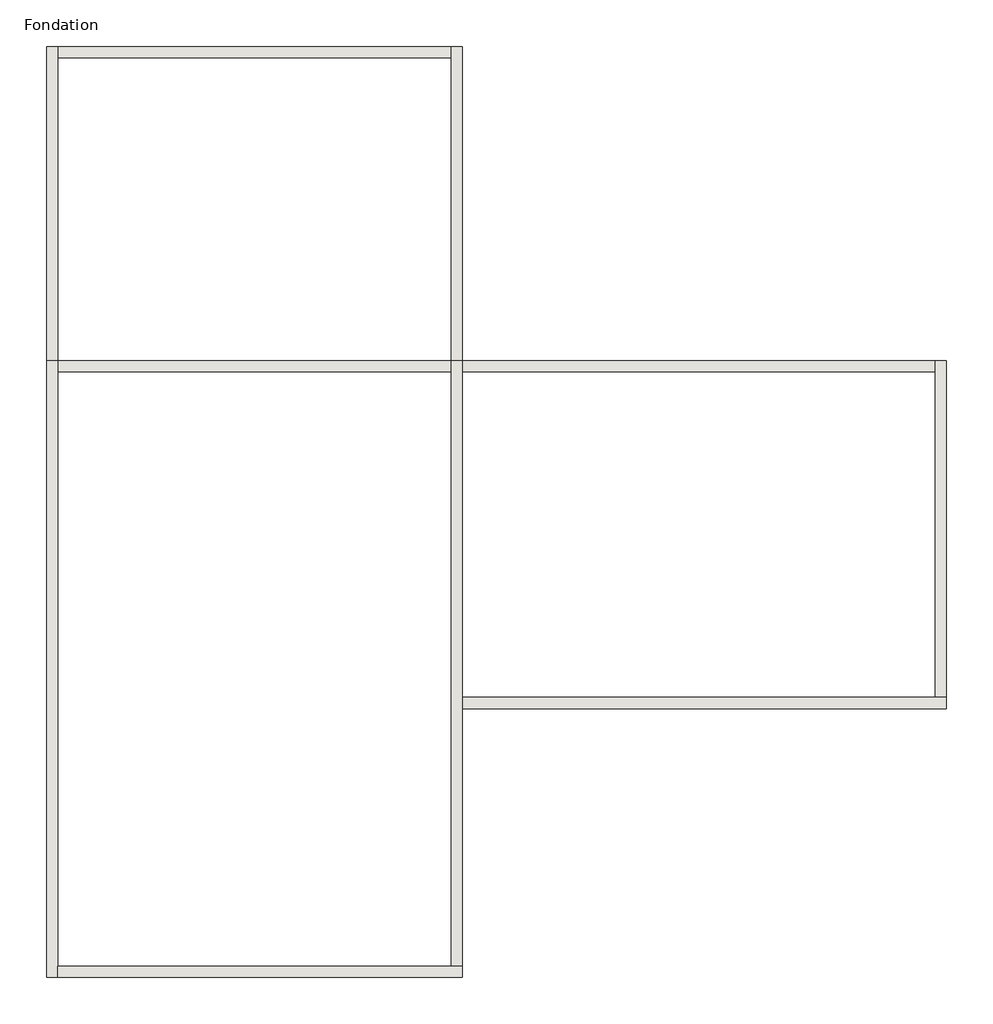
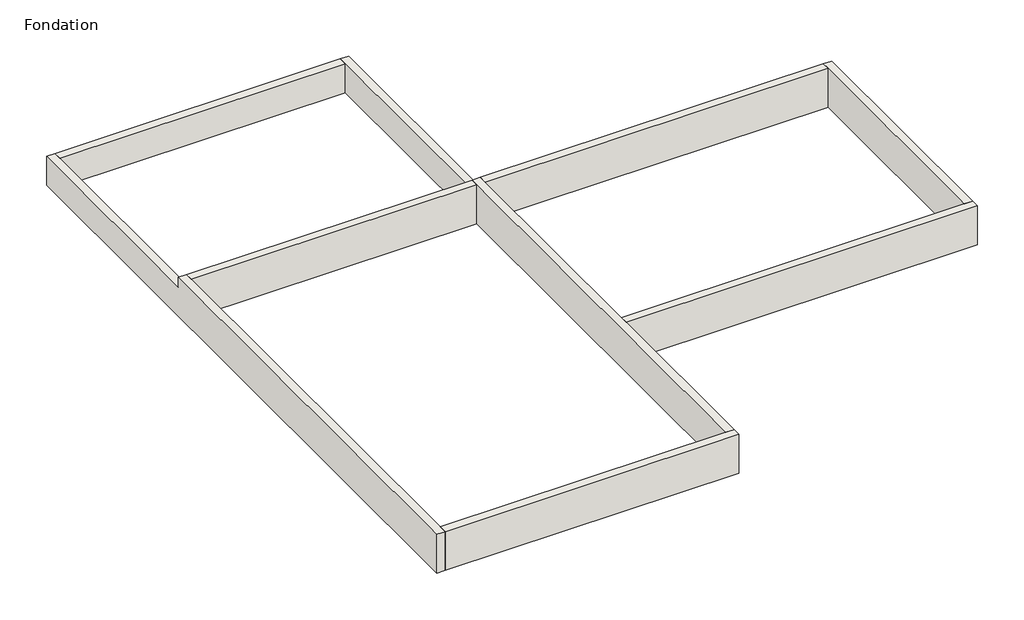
# One storey: 7 walls.
"""IFC4 building model written with IfcOpenShell, lengths in millimetres."""

from ifc_helpers import new_model, si_unit, frame, origin, place, context, project, spatial, polyline, outline, extrude, faceted_brep, element, save

model = new_model("IFC4")

# Units and contexts
model_context = context("Model", 3, world=origin())
ifc_project = project(units=[si_unit("LENGTHUNIT", "METRE", prefix="MILLI")], contexts=[model_context])

# Site, building, storey
site = spatial("IfcSite", under=ifc_project)
building = spatial("IfcBuilding", under=site)
storey = spatial("IfcBuildingStorey", under=building, Name="Fondation", Elevation=-1000.0)

# Walls
placement = place(None, origin())
element("IfcWall", 1, ObjectType="Fondation Béton", at=placement, inside=storey, context=model_context, shape_type="Brep", body=[
    faceted_brep([(-7836.697342, 7834.9574199, -1000.0), (-7836.697342, -8615.0425801, -1000.0), (-7836.697342, -8615.0425801, 0.0), (-7836.697342, 2284.9574199, 0.0), (-7836.697342, 2284.9574199, -250.0), (-7836.697342, 7834.9574199, -250.0), (-7636.697342, -8615.0425801, -1000.0), (-7636.697342, -8415.0425801, -1000.0), (-7636.697342, 2084.9574199, -1000.0), (-7636.697342, 2284.9574199, -1000.0), (-7636.697342, 7634.9574199, -1000.0), (-7636.697342, 7834.9574199, -1000.0), (-7636.697342, 7834.9574199, -250.0), (-7636.697342, 7634.9574199, -250.0), (-7636.697342, 2284.9574199, -250.0), (-7636.697342, 2284.9574199, 0.0), (-7636.697342, 2084.9574199, 0.0), (-7636.697342, -8415.0425801, 0.0), (-7636.697342, -8615.0425801, 0.0)], [[[0, 1, 2, 3, 4, 5]], [[6, 7, 8, 9, 10, 11, 12, 13, 14, 15, 16, 17, 18]], [[1, 0, 11, 10, 9, 8, 7, 6]], [[2, 18, 17, 16, 15, 3]], [[11, 0, 5, 12]], [[4, 14, 13, 12, 5]], [[14, 4, 3, 15]], [[2, 1, 6, 18]]]),
])
element("IfcWall", 2, ObjectType="Fondation Béton", at=placement, inside=storey, context=model_context, shape_type="Brep", body=[
    faceted_brep([(-7636.697342, -8615.0425801, -1000.0), (-486.697342, -8615.0425801, -1000.0), (-486.697342, -8615.0425801, 0.0), (-7636.697342, -8615.0425801, 0.0), (-7636.697342, -8415.0425801, -1000.0), (-7636.697342, -8415.0425801, -360.0), (-7636.697342, -8415.0425801, 0.0), (-686.697342, -8415.0425801, 0.0), (-486.697342, -8415.0425801, 0.0), (-486.697342, -8415.0425801, -1000.0), (-686.697342, -8415.0425801, -1000.0)], [[[0, 1, 2, 3]], [[4, 5, 6, 7, 8, 9, 10]], [[1, 0, 4, 10, 9]], [[3, 2, 8, 7, 6]], [[2, 1, 9, 8]], [[0, 3, 6, 5, 4]]]),
])
element("IfcWall", 3, ObjectType="Fondation Béton", at=placement, inside=storey, context=model_context, shape_type="Brep", body=[
    faceted_brep([(-486.697342, -8415.0425801, -1000.0), (-486.697342, -3865.0425801, -1000.0), (-486.697342, -3665.0425801, -1000.0), (-486.697342, 2084.9574199, -1000.0), (-486.697342, 2284.9574199, -1000.0), (-486.697342, 7834.9574199, -1000.0), (-486.697342, 7834.9574199, -250.0), (-486.697342, 2284.9574199, -250.0), (-486.697342, 2284.9574199, 0.0), (-486.697342, 2084.9574199, 0.0), (-486.697342, -3665.0425801, 0.0), (-486.697342, -3865.0425801, 0.0), (-486.697342, -8415.0425801, 0.0), (-686.697342, 7834.9574199, -1000.0), (-686.697342, 7634.9574199, -1000.0), (-686.697342, 2284.9574199, -1000.0), (-686.697342, 2084.9574199, -1000.0), (-686.697342, -8415.0425801, -1000.0), (-686.697342, -8415.0425801, -360.0), (-686.697342, -8415.0425801, 0.0), (-686.697342, 2084.9574199, 0.0), (-686.697342, 2284.9574199, 0.0), (-686.697342, 2284.9574199, -250.0), (-686.697342, 7634.9574199, -250.0), (-686.697342, 7834.9574199, -250.0)], [[[0, 1, 2, 3, 4, 5, 6, 7, 8, 9, 10, 11, 12]], [[13, 14, 15, 16, 17, 18, 19, 20, 21, 22, 23, 24]], [[5, 4, 3, 2, 1, 0, 17, 16, 15, 14, 13]], [[19, 12, 11, 10, 9, 8, 21, 20]], [[17, 0, 12, 19, 18]], [[5, 13, 24, 6]], [[22, 7, 6, 24, 23]], [[7, 22, 21, 8]]]),
])
element("IfcWall", 4, ObjectType="Fondation Béton", at=placement, inside=storey, context=model_context, shape_type="Brep", body=[
    faceted_brep([(-486.697342, -3865.0425801, -1000.0), (8063.302658, -3865.0425801, -1000.0), (8063.302658, -3865.0425801, 0.0), (-486.697342, -3865.0425801, 0.0), (-486.697342, -3665.0425801, -1000.0), (-486.697342, -3665.0425801, -360.0), (-486.697342, -3665.0425801, 0.0), (7863.302658, -3665.0425801, 0.0), (8063.302658, -3665.0425801, 0.0), (8063.302658, -3665.0425801, -1000.0), (7863.302658, -3665.0425801, -1000.0)], [[[0, 1, 2, 3]], [[4, 5, 6, 7, 8, 9, 10]], [[1, 0, 4, 10, 9]], [[3, 2, 8, 7, 6]], [[2, 1, 9, 8]], [[0, 3, 6, 5, 4]]]),
])
element("IfcWall", 5, ObjectType="Fondation Béton", at=placement, inside=storey, context=model_context, shape_type="Brep", body=[
    faceted_brep([(8063.302658, -3665.0425801, -1000.0), (8063.302658, 2284.9574199, -1000.0), (8063.302658, 2284.9574199, 0.0), (8063.302658, -3665.0425801, 0.0), (7863.302658, -3665.0425801, -1000.0), (7863.302658, -3665.0425801, -360.0), (7863.302658, -3665.0425801, 0.0), (7863.302658, 2084.9574199, 0.0), (7863.302658, 2284.9574199, 0.0), (7863.302658, 2284.9574199, -1000.0), (7863.302658, 2084.9574199, -1000.0)], [[[0, 1, 2, 3]], [[4, 5, 6, 7, 8, 9, 10]], [[1, 0, 4, 10, 9]], [[3, 2, 8, 7, 6]], [[0, 3, 6, 5, 4]], [[2, 1, 9, 8]]]),
])
element("IfcWall", 6, ObjectType="Fondation Béton", at=placement, inside=storey, context=model_context, shape_type="Brep", body=[
    faceted_brep([(7863.302658, 2284.9574199, 0.0), (7863.302658, 2284.9574199, -1000.0), (-486.697342, 2284.9574199, -1000.0), (-486.697342, 2284.9574199, -250.0), (-486.697342, 2284.9574199, 0.0), (7863.302658, 2084.9574199, -1000.0), (7863.302658, 2084.9574199, -360.0), (7863.302658, 2084.9574199, 0.0), (-486.697342, 2084.9574199, 0.0), (-486.697342, 2084.9574199, -360.0), (-486.697342, 2084.9574199, -1000.0)], [[[0, 1, 2, 3, 4]], [[5, 6, 7, 8, 9, 10]], [[1, 5, 10, 2]], [[7, 0, 4, 8]], [[1, 0, 7, 6, 5]], [[4, 3, 2, 10, 9, 8]]]),
    faceted_brep([(-7636.697342, 2284.9574199, -1000.0), (-7636.697342, 2284.9574199, -250.0), (-7636.697342, 2284.9574199, 0.0), (-686.697342, 2284.9574199, 0.0), (-686.697342, 2284.9574199, -250.0), (-686.697342, 2284.9574199, -1000.0), (-7636.697342, 2084.9574199, 0.0), (-7636.697342, 2084.9574199, -360.0), (-7636.697342, 2084.9574199, -1000.0), (-686.697342, 2084.9574199, -1000.0), (-686.697342, 2084.9574199, -360.0), (-686.697342, 2084.9574199, 0.0)], [[[0, 1, 2, 3, 4, 5]], [[6, 7, 8, 9, 10, 11]], [[8, 0, 5, 9]], [[2, 6, 11, 3]], [[2, 1, 0, 8, 7, 6]], [[5, 4, 3, 11, 10, 9]]]),
])
element("IfcWall", 7, ObjectType="Fondation Béton", at=placement, inside=storey, context=model_context, shape_type="SweptSolid", body=[
    extrude(outline(polyline([(-686.697342, 7634.9574199), (-7636.697342, 7634.9574199), (-7636.697342, 7834.9574199), (-686.697342, 7834.9574199), (-686.697342, 7634.9574199)])), frame((0.0, 0.0, -1000.0), z_axis=(0.0, 0.0, 1.0), x_axis=(1.0, 0.0, 0.0)), (0.0, 0.0, 1.0), 750.0),
])

save(model, "model.ifc")
